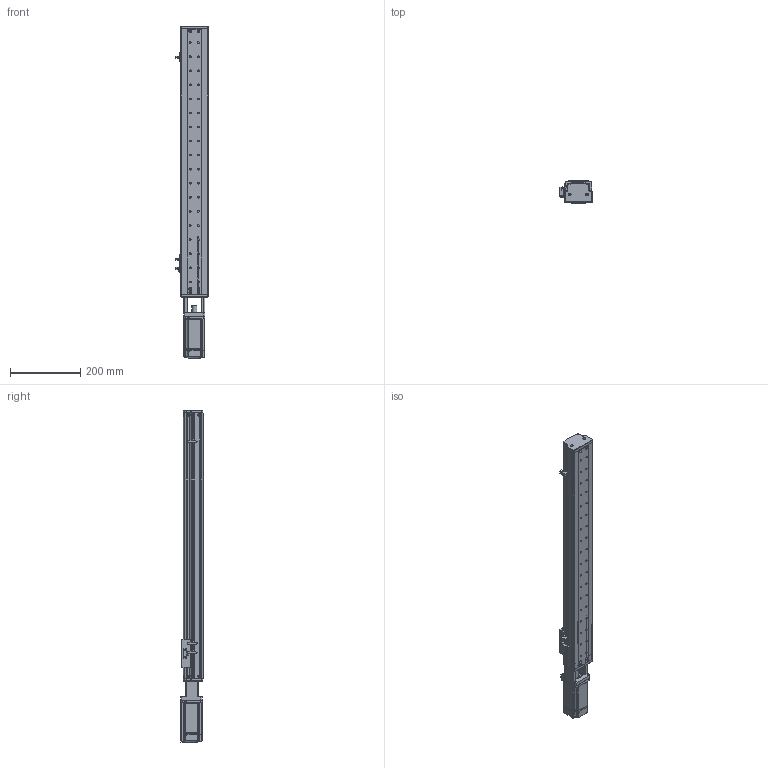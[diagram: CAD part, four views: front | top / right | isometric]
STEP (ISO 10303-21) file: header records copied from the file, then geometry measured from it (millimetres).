
FILE_DESCRIPTION (( 'STEP AP214' ), '1' );
FILE_NAME ('KSD75S-S600-MT-CM.STEP', '2019-10-18T07:35:50', ( '微软用户' ), ( '微软中国' ), 'SwSTEP 2.0', 'SolidWorks 2014', '' );
FILE_SCHEMA (( 'AUTOMOTIVE_DESIGN' ));
Length unit declared in the file: millimetre
Products named in the file (12): 75裔啣-600俴最; 75遵耀郪耜啣-600俴最; 75遵賑雄釱; MGW15H賑寢600俴最 ; 600俴最; KSD75S-S600-MT-CM; MHMD042G1CA_2_03; 覜茼え100遵圉猾敕; U倰嫖萇EEㄜSX672; 綴傷啣 ; 100遵鎮湛假蚾啣1 ; ヶ傷啣
Assembly tree (14 placements, depth 3):
  KSD75S-S600-MT-CM
    MGW15H賑寢600俴最 
      600俴最
    75遵賑雄釱
    75遵耀郪耜啣-600俴最  x2
    75裔啣-600俴最
    ヶ傷啣
    100遵鎮湛假蚾啣1 
    綴傷啣 
    U倰嫖萇EEㄜSX672  x3
    覜茼え100遵圉猾敕
    MHMD042G1CA_2_03
Bounding box: 91.7 x 63 x 943.5 mm (x, y, z)
Volume: 952876.9 mm3; surface area: 597842.7 mm2
Topology: 12 solids, 13 shells, 1456 faces, 4101 edges, 2675 vertices
Faces by surface type: cylinder 700, plane 609, cone 129, bspline 18
Entity records: 46744 total; most frequent: CARTESIAN_POINT 8847, DIRECTION 6973, ORIENTED_EDGE 6482, EDGE_CURVE 3312, AXIS2_PLACEMENT_3D 2580, VERTEX_POINT 2193, LINE 1813, VECTOR 1813
